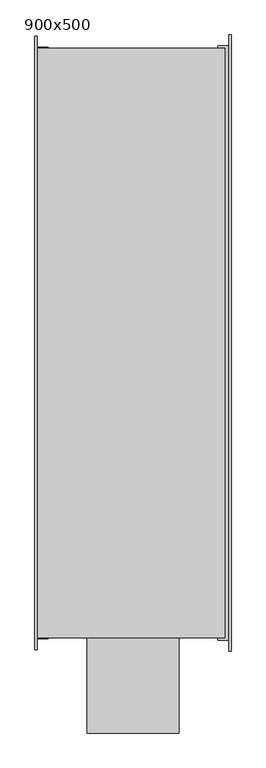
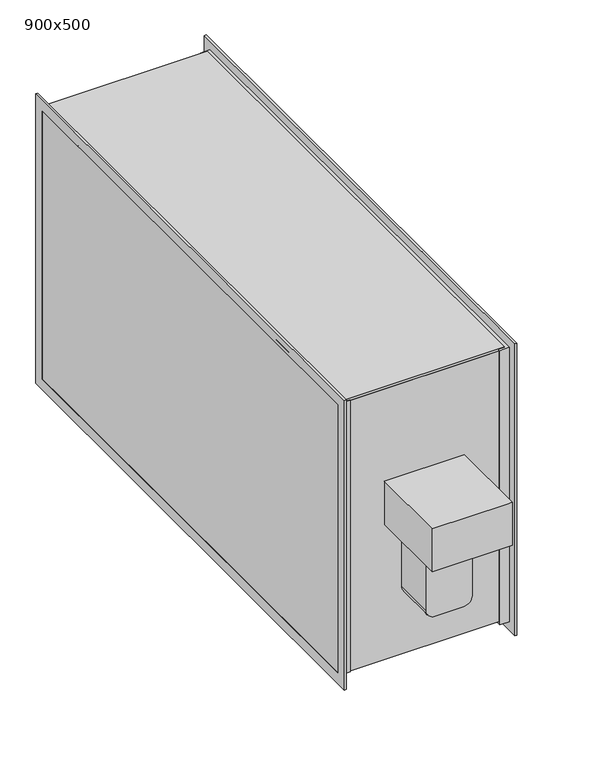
"""IFC4 building model written with IfcOpenShell, lengths in millimetres: damper geometry, Клапан ОЗК прямоугольный канальный НЗ : 900x500."""

from ifc_helpers import new_model, si_unit, point, frame, frame_2d, origin, place, context, project, spatial, polyline, circle_curve, trimmed, segment, composite_curve, outline, extrude, faceted_brep, source, transform, mapped, element, save


def damper_900x500_e67ed9e8(model_context):
    return source(origin(), model_context, "Body", "SolidModel", [
        extrude(outline(composite_curve([segment(trimmed(circle_curve(frame_2d((8.3674271, 0.0)), 6.0), [point((8.3674271, -6.0))], [point((8.3674271, 6.0))], False, "CARTESIAN"), True, "CONTINUOUS"), segment(trimmed(circle_curve(frame_2d((8.3674271, 0.0)), 6.0), [point((8.3674271, 6.0))], [point((8.3674271, -6.0))], False, "CARTESIAN"), True, "CONTINUOUS")], self_intersect=False)), frame((0.0, -450.0, 0.0), z_axis=(0.0, 1.0, 0.0), x_axis=(0.0, 0.0, 1.0)), (0.0, 0.0, 1.0), 100.0),
        extrude(outline(polyline([(19.330127, -485.5354596), (19.330127, -490.5354596), (15.0, -493.0354596), (10.669873, -490.5354596), (10.669873, -485.5354596), (15.0, -483.0354596), (19.330127, -485.5354596)])), frame((0.0, 0.0, -160.0), z_axis=(0.0, 0.0, 1.0), x_axis=(1.0, 0.0, 0.0)), (0.0, 0.0, 1.0), 20.0),
        extrude(outline(polyline([(-19.330127, -485.5354596), (-15.0, -483.0354596), (-10.669873, -485.5354596), (-10.669873, -490.5354596), (-15.0, -493.0354596), (-19.330127, -490.5354596), (-19.330127, -485.5354596)])), frame((0.0, 0.0, -160.0), z_axis=(0.0, 0.0, 1.0), x_axis=(1.0, 0.0, 0.0)), (0.0, 0.0, 1.0), 20.0),
        extrude(outline(polyline([(20.0, -545.0), (-20.0, -545.0), (-20.0, -525.0), (20.0, -525.0), (20.0, -545.0)])), frame((0.0, 0.0, -11.6325729), z_axis=(0.0, 0.0, 1.0), x_axis=(1.0, 0.0, 0.0)), (0.0, 0.0, 1.0), 40.0),
        extrude(outline(composite_curve([segment(polyline([(40.0, 25.0), (40.0, -25.0)]), True, "CONTINUOUS"), segment(trimmed(circle_curve(frame_2d((25.0, -25.0)), 15.0), [point((40.0, -25.0))], [point((25.0, -40.0))], False, "CARTESIAN"), True, "CONTINUOUS"), segment(polyline([(25.0, -40.0), (-125.0, -40.0)]), True, "CONTINUOUS"), segment(trimmed(circle_curve(frame_2d((-125.0, -25.0)), 15.0), [point((-125.0, -40.0))], [point((-140.0, -25.0))], False, "CARTESIAN"), True, "CONTINUOUS"), segment(polyline([(-140.0, -25.0), (-140.0, 25.0)]), True, "CONTINUOUS"), segment(trimmed(circle_curve(frame_2d((-125.0, 25.0)), 15.0), [point((-140.0, 25.0))], [point((-125.0, 40.0))], False, "CARTESIAN"), True, "CONTINUOUS"), segment(polyline([(-125.0, 40.0), (25.0, 40.0)]), True, "CONTINUOUS"), segment(trimmed(circle_curve(frame_2d((25.0, 25.0)), 15.0), [point((25.0, 40.0))], [point((40.0, 25.0))], False, "CARTESIAN"), True, "CONTINUOUS")], self_intersect=False)), frame((0.0, -525.0, 0.0), z_axis=(0.0, 1.0, 0.0), x_axis=(0.0, 0.0, 1.0)), (0.0, 0.0, 1.0), 75.0),
        faceted_brep([(-70.0, -595.0, 80.0), (-70.0, -595.0, 70.0), (-70.0, -595.0, 0.0), (70.0, -595.0, 0.0), (70.0, -595.0, 80.0), (60.0, -595.0, 80.0), (-60.0, -450.0, 0.0), (-70.0, -450.0, 0.0), (-70.0, -450.0, 80.0), (70.0, -450.0, 80.0), (70.0, -450.0, 0.0), (60.0, -450.0, 0.0), (60.0, -450.0, 70.0), (-60.0, -450.0, 70.0), (-60.0, -585.0, 0.0), (60.0, -585.0, 0.0), (-60.0, -585.0, 70.0), (60.0, -585.0, 70.0)], [[[0, 1, 2, 3, 4, 5]], [[6, 7, 8, 9, 10, 11, 12, 13]], [[7, 2, 1, 0, 8]], [[7, 6, 14, 15, 11, 10, 3, 2]], [[14, 6, 13, 16]], [[9, 8, 0, 5, 4]], [[14, 16, 17, 15]], [[3, 10, 9, 4]], [[16, 13, 12, 17]], [[11, 15, 17, 12]]]),
        faceted_brep([(150.0, 450.0, 250.0), (130.0, 450.0, 250.0), (130.0, 450.0, -250.0), (150.0, 450.0, -250.0), (146.5502892, 470.0, 270.0), (150.0, 470.0, 270.0), (150.0, 470.0, -270.0), (146.5502892, 470.0, -270.0), (130.0, 453.4497108, 253.4497108), (146.5502892, 453.4497108, 253.4497108), (146.5502892, 453.4497108, -253.4497108), (130.0, 453.4497108, -253.4497108), (130.0, -450.0, -250.0), (150.0, -450.0, -250.0), (150.0, -470.0, -270.0), (146.5502892, -470.0, -270.0), (146.5502892, -453.4497108, -253.4497108), (130.0, -453.4497108, -253.4497108), (130.0, -450.0, 250.0), (150.0, -450.0, 250.0), (150.0, -470.0, 270.0), (146.5502892, -470.0, 270.0), (146.5502892, -453.4497108, 253.4497108), (130.0, -453.4497108, 253.4497108)], [[[0, 1, 2, 3]], [[4, 5, 6, 7]], [[8, 9, 10, 11]], [[3, 2, 12, 13]], [[7, 6, 14, 15]], [[11, 10, 16, 17]], [[13, 12, 18, 19]], [[15, 14, 20, 21]], [[17, 16, 22, 23]], [[19, 18, 1, 0]], [[5, 20, 14, 6], [3, 13, 19, 0]], [[21, 20, 5, 4]], [[7, 15, 21, 4], [9, 22, 16, 10]], [[23, 22, 9, 8]], [[11, 17, 23, 8], [1, 18, 12, 2]]]),
        faceted_brep([(-150.0, -447.6138858, 247.6138858), (-130.0, -447.6138858, 247.6138858), (-130.0, -447.6138858, -247.6138858), (-150.0, -447.6138858, -247.6138858), (-146.5502892, -467.6138858, 267.6138858), (-150.0, -467.6138858, 267.6138858), (-150.0, -467.6138858, -267.6138858), (-146.5502892, -467.6138858, -267.6138858), (-130.0, -451.0635966, 251.0635966), (-146.5502892, -451.0635966, 251.0635966), (-146.5502892, -451.0635966, -251.0635966), (-130.0, -451.0635966, -251.0635966), (-130.0, 447.6138858, -247.6138858), (-150.0, 447.6138858, -247.6138858), (-150.0, 467.6138858, -267.6138858), (-146.5502892, 467.6138858, -267.6138858), (-146.5502892, 451.0635966, -251.0635966), (-130.0, 451.0635966, -251.0635966), (-130.0, 447.6138858, 247.6138858), (-150.0, 447.6138858, 247.6138858), (-150.0, 467.6138858, 267.6138858), (-146.5502892, 467.6138858, 267.6138858), (-146.5502892, 451.0635966, 251.0635966), (-130.0, 451.0635966, 251.0635966)], [[[0, 1, 2, 3]], [[4, 5, 6, 7]], [[8, 9, 10, 11]], [[3, 2, 12, 13]], [[7, 6, 14, 15]], [[11, 10, 16, 17]], [[13, 12, 18, 19]], [[15, 14, 20, 21]], [[17, 16, 22, 23]], [[19, 18, 1, 0]], [[5, 20, 14, 6], [3, 13, 19, 0]], [[21, 20, 5, 4]], [[7, 15, 21, 4], [9, 22, 16, 10]], [[23, 22, 9, 8]], [[11, 17, 23, 8], [1, 18, 12, 2]]]),
        extrude(outline(polyline([(150.0, 450.0), (150.0, -450.0), (-150.0, -450.0), (-150.0, 450.0), (150.0, 450.0)])), frame((0.0, 0.0, -250.0), z_axis=(0.0, 0.0, 1.0), x_axis=(1.0, 0.0, 0.0)), (0.0, 0.0, 1.0), 500.0),
        extrude(outline(polyline([(-150.0, 450.0), (140.0, 450.0), (140.0, -450.0), (-150.0, -450.0), (-150.0, 450.0)])), frame((0.0, 0.0, 250.0), z_axis=(0.0, 0.0, 1.0), x_axis=(1.0, 0.0, 0.0)), (0.0, 0.0, 1.0), 5.0),
    ])


if __name__ == "__main__":
    model = new_model("IFC4")
    model_context = context("Model", 3, world=origin())
    ifc_project = project(units=[si_unit("LENGTHUNIT", "METRE", prefix="MILLI")], contexts=[model_context])
    site = spatial("IfcSite", under=ifc_project)
    building = spatial("IfcBuilding", under=site)
    placement = place(None, origin())
    damper_900x500_shape = damper_900x500_e67ed9e8(model_context)
    element("IfcDamper", 1, ObjectType="Клапан ОЗК прямоугольный канальный НЗ : 900x500", at=placement, inside=building, context=model_context, shape_type="MappedRepresentation", body=[
        mapped(damper_900x500_shape, transform((0.0, 0.0, 0.0), x_axis=(1.0, 0.0, 0.0), y_axis=(0.0, 1.0, 0.0), z_axis=(0.0, 0.0, 1.0))),
    ])
    save(model, "model.ifc")
